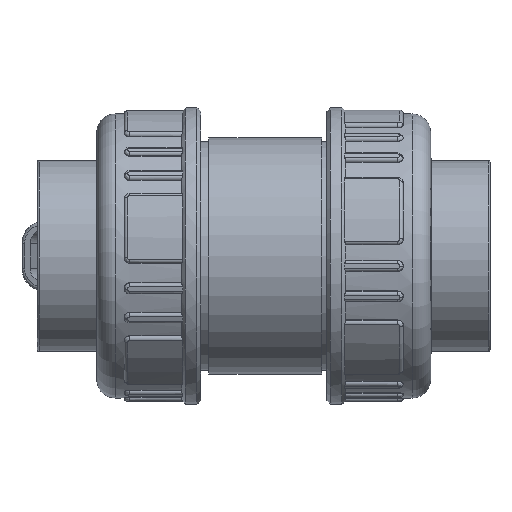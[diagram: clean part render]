
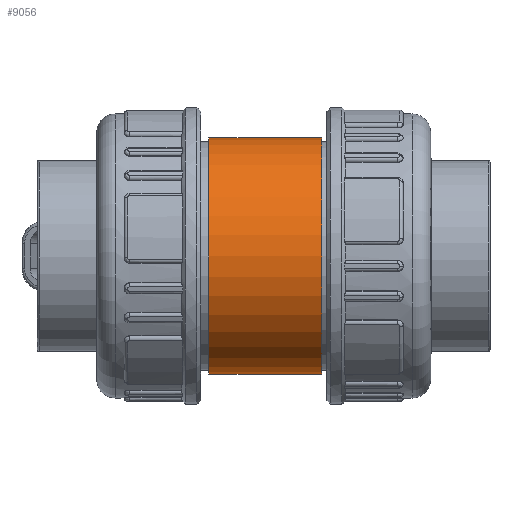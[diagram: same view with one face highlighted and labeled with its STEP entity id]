
A CAD part, left-side view. The second image highlights one B-rep face of the part: STEP entity #9056.
In plain terms, the highlighted cylindrical face has radius 31.85 mm (diameter 63.7 mm), a full revolution.
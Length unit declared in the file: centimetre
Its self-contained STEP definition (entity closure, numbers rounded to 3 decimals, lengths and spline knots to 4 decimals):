
#404=B_SPLINE_CURVE_WITH_KNOTS('',3,(#36845,#36846,#36847,#36848,#36849,
#36850,#36851,#36852,#36853,#36854,#36855,#36856,#36857,#36858,#36859,#36860,
#36861,#36862,#36863,#36864,#36865,#36866,#36867,#36868,#36869,#36870,#36871,
#36872,#36873,#36874,#36875,#36876,#36877,#36878,#36879,#36880,#36881,#36882,
#36883,#36884,#36885,#36886,#36887,#36888,#36889,#36890,#36891,#36892,#36893,
#36894),.UNSPECIFIED.,.T.,.F.,(4,2,2,2,2,2,2,2,2,2,2,2,2,2,2,2,2,2,2,2,
2,2,2,2,4),(0.,0.2689,0.5378,1.0756,1.6126,
1.8811,2.1496,2.4181,2.6866,3.2235,
3.7614,4.0303,4.2992,4.5681,4.837,
5.3748,5.9118,6.1803,6.4488,6.7173,
6.9857,7.5227,8.0605,8.3294,8.5983),
 .UNSPECIFIED.);
#1633=CYLINDRICAL_SURFACE('',#9781,3.185);
#1734=FACE_BOUND('',#2630,.T.);
#1735=FACE_BOUND('',#2631,.T.);
#2070=FACE_OUTER_BOUND('',#2629,.T.);
#2629=EDGE_LOOP('',(#6944));
#2630=EDGE_LOOP('',(#6945));
#2631=EDGE_LOOP('',(#6946));
#3144=CIRCLE('',#9782,3.185);
#3145=CIRCLE('',#9783,3.185);
#3812=VERTEX_POINT('',#36844);
#3818=VERTEX_POINT('',#36951);
#3819=VERTEX_POINT('',#36953);
#4905=EDGE_CURVE('',#3812,#3812,#404,.T.);
#4916=EDGE_CURVE('',#3818,#3818,#3144,.T.);
#4917=EDGE_CURVE('',#3819,#3819,#3145,.T.);
#6944=ORIENTED_EDGE('',*,*,#4916,.F.);
#6945=ORIENTED_EDGE('',*,*,#4905,.T.);
#6946=ORIENTED_EDGE('',*,*,#4917,.T.);
#9056=ADVANCED_FACE('',(#2070,#1734,#1735),#1633,.T.);
#9781=AXIS2_PLACEMENT_3D('',#36950,#11415,#11416);
#9782=AXIS2_PLACEMENT_3D('',#36952,#11417,#11418);
#9783=AXIS2_PLACEMENT_3D('',#36954,#11419,#11420);
#11415=DIRECTION('center_axis',(0.,-1.,0.));
#11416=DIRECTION('ref_axis',(-1.,0.,0.));
#11417=DIRECTION('center_axis',(0.,-1.,0.));
#11418=DIRECTION('ref_axis',(1.,0.,0.));
#11419=DIRECTION('center_axis',(0.,-1.,0.));
#11420=DIRECTION('ref_axis',(1.,0.,0.));
#36844=CARTESIAN_POINT('',(2.8584,0.,-1.405));
#36845=CARTESIAN_POINT('Ctrl Pts',(2.8584,0.,-1.405));
#36846=CARTESIAN_POINT('Ctrl Pts',(2.8584,-0.0896,
-1.405));
#36847=CARTESIAN_POINT('Ctrl Pts',(2.8627,-0.1819,
-1.3963));
#36848=CARTESIAN_POINT('Ctrl Pts',(2.8801,-0.3644,
-1.3601));
#36849=CARTESIAN_POINT('Ctrl Pts',(2.8931,-0.4548,
-1.3326));
#36850=CARTESIAN_POINT('Ctrl Pts',(2.9412,-0.7137,-1.2246));
#36851=CARTESIAN_POINT('Ctrl Pts',(2.9855,-0.87,
-1.117));
#36852=CARTESIAN_POINT('Ctrl Pts',(3.0666,-1.1168,-0.8702));
#36853=CARTESIAN_POINT('Ctrl Pts',(3.1089,-1.2246,-0.7138));
#36854=CARTESIAN_POINT('Ctrl Pts',(3.1536,-1.3327,-0.4547));
#36855=CARTESIAN_POINT('Ctrl Pts',(3.1654,-1.3601,-0.3643));
#36856=CARTESIAN_POINT('Ctrl Pts',(3.1811,-1.3963,-0.1817));
#36857=CARTESIAN_POINT('Ctrl Pts',(3.185,-1.405,-0.0895));
#36858=CARTESIAN_POINT('Ctrl Pts',(3.185,-1.405,0.0895));
#36859=CARTESIAN_POINT('Ctrl Pts',(3.1811,-1.3963,0.1817));
#36860=CARTESIAN_POINT('Ctrl Pts',(3.1654,-1.3601,0.3643));
#36861=CARTESIAN_POINT('Ctrl Pts',(3.1536,-1.3327,0.4547));
#36862=CARTESIAN_POINT('Ctrl Pts',(3.1089,-1.2246,0.7138));
#36863=CARTESIAN_POINT('Ctrl Pts',(3.0666,-1.1168,0.8702));
#36864=CARTESIAN_POINT('Ctrl Pts',(2.9855,-0.87,
1.117));
#36865=CARTESIAN_POINT('Ctrl Pts',(2.9412,-0.7137,1.2246));
#36866=CARTESIAN_POINT('Ctrl Pts',(2.8931,-0.4548,
1.3326));
#36867=CARTESIAN_POINT('Ctrl Pts',(2.8801,-0.3644,
1.3601));
#36868=CARTESIAN_POINT('Ctrl Pts',(2.8627,-0.1819,
1.3963));
#36869=CARTESIAN_POINT('Ctrl Pts',(2.8584,-0.0896,
1.405));
#36870=CARTESIAN_POINT('Ctrl Pts',(2.8584,0.0896,
1.405));
#36871=CARTESIAN_POINT('Ctrl Pts',(2.8627,0.1819,1.3963));
#36872=CARTESIAN_POINT('Ctrl Pts',(2.8801,0.3644,1.3601));
#36873=CARTESIAN_POINT('Ctrl Pts',(2.8931,0.4548,1.3326));
#36874=CARTESIAN_POINT('Ctrl Pts',(2.9412,0.7137,1.2246));
#36875=CARTESIAN_POINT('Ctrl Pts',(2.9855,0.87,1.117));
#36876=CARTESIAN_POINT('Ctrl Pts',(3.0666,1.1168,0.8702));
#36877=CARTESIAN_POINT('Ctrl Pts',(3.1089,1.2246,0.7138));
#36878=CARTESIAN_POINT('Ctrl Pts',(3.1536,1.3327,0.4547));
#36879=CARTESIAN_POINT('Ctrl Pts',(3.1654,1.3601,0.3643));
#36880=CARTESIAN_POINT('Ctrl Pts',(3.1811,1.3963,0.1817));
#36881=CARTESIAN_POINT('Ctrl Pts',(3.185,1.405,0.0895));
#36882=CARTESIAN_POINT('Ctrl Pts',(3.185,1.405,-0.0895));
#36883=CARTESIAN_POINT('Ctrl Pts',(3.1811,1.3963,-0.1817));
#36884=CARTESIAN_POINT('Ctrl Pts',(3.1654,1.3601,-0.3643));
#36885=CARTESIAN_POINT('Ctrl Pts',(3.1536,1.3327,-0.4547));
#36886=CARTESIAN_POINT('Ctrl Pts',(3.1089,1.2246,-0.7138));
#36887=CARTESIAN_POINT('Ctrl Pts',(3.0666,1.1168,-0.8702));
#36888=CARTESIAN_POINT('Ctrl Pts',(2.9855,0.87,-1.117));
#36889=CARTESIAN_POINT('Ctrl Pts',(2.9412,0.7137,-1.2246));
#36890=CARTESIAN_POINT('Ctrl Pts',(2.8931,0.4548,-1.3326));
#36891=CARTESIAN_POINT('Ctrl Pts',(2.8801,0.3644,-1.3601));
#36892=CARTESIAN_POINT('Ctrl Pts',(2.8627,0.1819,-1.3963));
#36893=CARTESIAN_POINT('Ctrl Pts',(2.8584,0.0896,
-1.405));
#36894=CARTESIAN_POINT('Ctrl Pts',(2.8584,0.,
-1.405));
#36950=CARTESIAN_POINT('Origin',(0.,-0.04,0.));
#36951=CARTESIAN_POINT('',(-3.185,-1.56,0.));
#36952=CARTESIAN_POINT('Origin',(0.,-1.56,0.));
#36953=CARTESIAN_POINT('',(-3.185,1.48,0.));
#36954=CARTESIAN_POINT('Origin',(0.,1.48,0.));
